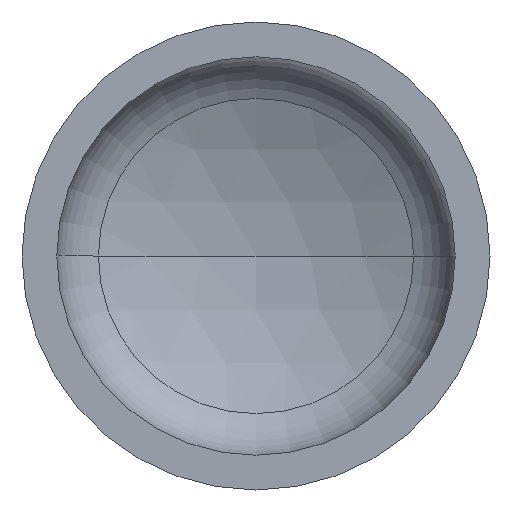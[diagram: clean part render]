
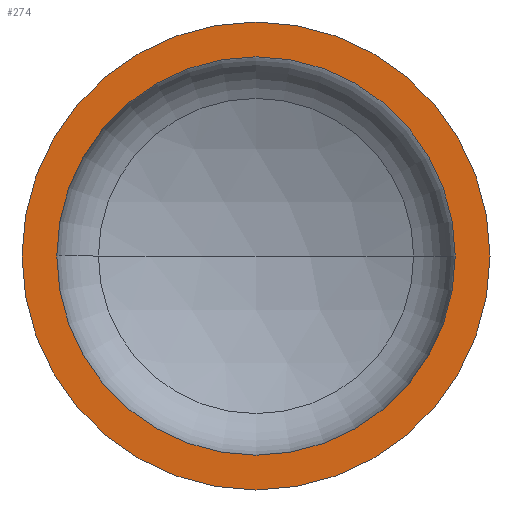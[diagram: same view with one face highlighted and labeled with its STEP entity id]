
A CAD part, front view. The second image highlights one B-rep face of the part: STEP entity #274.
In plain terms, the highlighted planar face has unit normal (0, -1, 0).
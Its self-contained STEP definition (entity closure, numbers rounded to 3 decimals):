
#2 = VERTEX_POINT ( 'NONE', #290 ) ;
#6 = EDGE_LOOP ( 'NONE', ( #121, #61 ) ) ;
#10 = VERTEX_POINT ( 'NONE', #311 ) ;
#18 = ORIENTED_EDGE ( 'NONE', *, *, #362, .F. ) ;
#22 = VERTEX_POINT ( 'NONE', #373 ) ;
#23 = AXIS2_PLACEMENT_3D ( 'NONE', #145, #162, #168 ) ;
#37 = AXIS2_PLACEMENT_3D ( 'NONE', #272, #60, #46 ) ;
#38 = ORIENTED_EDGE ( 'NONE', *, *, #130, .F. ) ;
#40 = EDGE_LOOP ( 'NONE', ( #38, #18 ) ) ;
#46 = DIRECTION ( 'NONE',  ( -1., 0., 0. ) ) ;
#60 = DIRECTION ( 'NONE',  ( 0., 1., 0. ) ) ;
#61 = ORIENTED_EDGE ( 'NONE', *, *, #126, .T. ) ;
#81 = AXIS2_PLACEMENT_3D ( 'NONE', #314, #223, #234 ) ;
#91 = AXIS2_PLACEMENT_3D ( 'NONE', #329, #327, #325 ) ;
#100 = VERTEX_POINT ( 'NONE', #265 ) ;
#121 = ORIENTED_EDGE ( 'NONE', *, *, #375, .T. ) ;
#126 = EDGE_CURVE ( 'NONE', #100, #2, #366, .T. ) ;
#130 = EDGE_CURVE ( 'NONE', #10, #22, #189, .T. ) ;
#145 = CARTESIAN_POINT ( 'NONE',  ( 0., 0., 0. ) ) ;
#148 = FACE_BOUND ( 'NONE', #40, .T. ) ;
#162 = DIRECTION ( 'NONE',  ( 0., -1., 0. ) ) ;
#168 = DIRECTION ( 'NONE',  ( 1., 0., 0. ) ) ;
#172 = DIRECTION ( 'NONE',  ( 0., -1., 0. ) ) ;
#179 = CARTESIAN_POINT ( 'NONE',  ( 0., 0., 0. ) ) ;
#189 = CIRCLE ( 'NONE', #81, 596. ) ;
#207 = PLANE ( 'NONE',  #37 ) ;
#223 = DIRECTION ( 'NONE',  ( 0., -1., 0. ) ) ;
#234 = DIRECTION ( 'NONE',  ( 1., 0., 0. ) ) ;
#265 = CARTESIAN_POINT ( 'NONE',  ( -700., 0., 0. ) ) ;
#267 = DIRECTION ( 'NONE',  ( 1., 0., 0. ) ) ;
#272 = CARTESIAN_POINT ( 'NONE',  ( -700., 0., 0. ) ) ;
#274 = ADVANCED_FACE ( 'NONE', ( #148, #344 ), #207, .F. ) ;
#290 = CARTESIAN_POINT ( 'NONE',  ( 700., 0., 0. ) ) ;
#311 = CARTESIAN_POINT ( 'NONE',  ( 596., 0., 0. ) ) ;
#314 = CARTESIAN_POINT ( 'NONE',  ( 0., 0., 0. ) ) ;
#325 = DIRECTION ( 'NONE',  ( 1., 0., 0. ) ) ;
#327 = DIRECTION ( 'NONE',  ( 0., -1., 0. ) ) ;
#329 = CARTESIAN_POINT ( 'NONE',  ( 0., 0., 0. ) ) ;
#341 = CIRCLE ( 'NONE', #23, 596. ) ;
#344 = FACE_OUTER_BOUND ( 'NONE', #6, .T. ) ;
#362 = EDGE_CURVE ( 'NONE', #22, #10, #341, .T. ) ;
#366 = CIRCLE ( 'NONE', #91, 700. ) ;
#373 = CARTESIAN_POINT ( 'NONE',  ( -596., 0., 0. ) ) ;
#375 = EDGE_CURVE ( 'NONE', #2, #100, #392, .T. ) ;
#392 = CIRCLE ( 'NONE', #405, 700. ) ;
#405 = AXIS2_PLACEMENT_3D ( 'NONE', #179, #172, #267 ) ;
